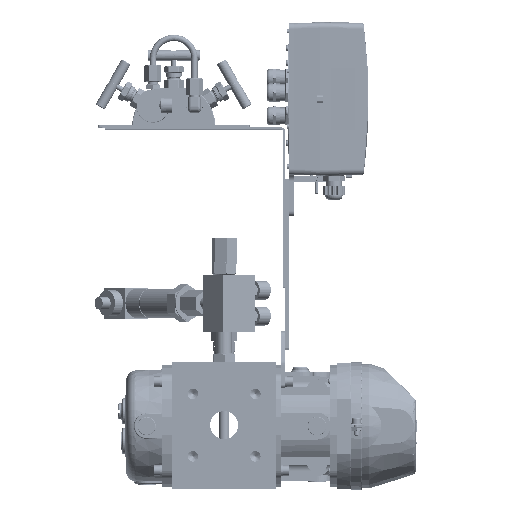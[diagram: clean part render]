
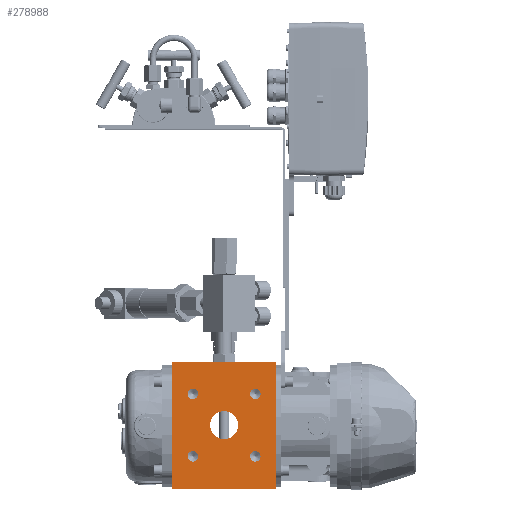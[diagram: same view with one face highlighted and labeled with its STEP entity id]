
A CAD part, front view. The second image highlights one B-rep face of the part: STEP entity #278988.
In plain terms, the highlighted planar face has unit normal (0, -1, 0).
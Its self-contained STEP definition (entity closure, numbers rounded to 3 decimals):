
#278988=ADVANCED_FACE('',(#538235,#538237,#538239,#538241,#538243,#538245),#538247,
.T.);
#538235=FACE_BOUND('',#538236,.T.);
#538236=EDGE_LOOP('',(#751439,#751440,#751441,#751442));
#538237=FACE_BOUND('',#538238,.T.);
#538238=EDGE_LOOP('',(#751443));
#538239=FACE_BOUND('',#538240,.T.);
#538240=EDGE_LOOP('',(#751444));
#538241=FACE_BOUND('',#538242,.T.);
#538242=EDGE_LOOP('',(#751445));
#538243=FACE_BOUND('',#538244,.T.);
#538244=EDGE_LOOP('',(#751446));
#538245=FACE_BOUND('',#538246,.T.);
#538246=EDGE_LOOP('',(#751447));
#538247=PLANE('',#538248);
#538248=AXIS2_PLACEMENT_3D('',#538249,#538250,#538251);
#538249=CARTESIAN_POINT('',(-14.,-64.84,61.91));
#538250=DIRECTION('',(0.,-1.,0.));
#538251=DIRECTION('',(0.,0.,-1.));
#751439=ORIENTED_EDGE('',*,*,#849894,.T.);
#751440=ORIENTED_EDGE('',*,*,#849966,.T.);
#751441=ORIENTED_EDGE('',*,*,#849853,.T.);
#751442=ORIENTED_EDGE('',*,*,#849965,.F.);
#751443=ORIENTED_EDGE('',*,*,#849967,.T.);
#751444=ORIENTED_EDGE('',*,*,#849968,.T.);
#751445=ORIENTED_EDGE('',*,*,#849969,.T.);
#751446=ORIENTED_EDGE('',*,*,#849970,.T.);
#751447=ORIENTED_EDGE('',*,*,#849971,.T.);
#849853=EDGE_CURVE('',#994145,#994143,#994146,.T.);
#849894=EDGE_CURVE('',#994226,#994224,#994227,.T.);
#849965=EDGE_CURVE('',#994226,#994143,#994343,.T.);
#849966=EDGE_CURVE('',#994224,#994145,#994344,.T.);
#849967=EDGE_CURVE('',#994345,#994345,#994346,.T.);
#849968=EDGE_CURVE('',#994347,#994347,#994348,.T.);
#849969=EDGE_CURVE('',#994349,#994349,#994350,.T.);
#849970=EDGE_CURVE('',#994351,#994351,#994352,.T.);
#849971=EDGE_CURVE('',#994353,#994353,#994354,.T.);
#994143=VERTEX_POINT('',#1396535);
#994145=VERTEX_POINT('',#1396539);
#994146=LINE('',#1396540,#1396541);
#994224=VERTEX_POINT('',#1396762);
#994226=VERTEX_POINT('',#1396766);
#994227=LINE('',#1396767,#1396768);
#994343=LINE('',#1397566,#1397567);
#994344=LINE('',#1397569,#1397570);
#994345=VERTEX_POINT('',#1397572);
#994346=CIRCLE('',#1397573,5.053);
#994347=VERTEX_POINT('',#1397577);
#994348=CIRCLE('',#1397578,5.053);
#994349=VERTEX_POINT('',#1397582);
#994350=CIRCLE('',#1397583,5.053);
#994351=VERTEX_POINT('',#1397587);
#994352=CIRCLE('',#1397588,13.5);
#994353=VERTEX_POINT('',#1397592);
#994354=CIRCLE('',#1397593,5.053);
#1396535=CARTESIAN_POINT('',(86.,-64.84,61.91));
#1396539=CARTESIAN_POINT('',(86.,-64.84,-60.09));
#1396540=CARTESIAN_POINT('',(86.,-64.84,-60.09));
#1396541=VECTOR('',#1396542,1.);
#1396542=DIRECTION('',(0.,0.,1.));
#1396762=CARTESIAN_POINT('',(-14.,-64.84,-60.09));
#1396766=CARTESIAN_POINT('',(-14.,-64.84,61.91));
#1396767=CARTESIAN_POINT('',(-14.,-64.84,61.91));
#1396768=VECTOR('',#1396769,1.);
#1396769=DIRECTION('',(0.,0.,-1.));
#1397566=CARTESIAN_POINT('',(-14.,-64.84,61.91));
#1397567=VECTOR('',#1397568,1.);
#1397568=DIRECTION('',(1.,0.,0.));
#1397569=CARTESIAN_POINT('',(-14.,-64.84,-60.09));
#1397570=VECTOR('',#1397571,1.);
#1397571=DIRECTION('',(1.,0.,0.));
#1397572=CARTESIAN_POINT('',(11.001,-64.84,30.962));
#1397573=AXIS2_PLACEMENT_3D('',#1397574,#1397575,#1397576);
#1397574=CARTESIAN_POINT('',(5.948,-64.84,30.962));
#1397575=DIRECTION('',(0.,1.,0.));
#1397576=DIRECTION('',(1.,0.,0.));
#1397577=CARTESIAN_POINT('',(11.001,-64.84,-29.142));
#1397578=AXIS2_PLACEMENT_3D('',#1397579,#1397580,#1397581);
#1397579=CARTESIAN_POINT('',(5.948,-64.84,-29.142));
#1397580=DIRECTION('',(0.,1.,0.));
#1397581=DIRECTION('',(1.,0.,0.));
#1397582=CARTESIAN_POINT('',(71.105,-64.84,-29.142));
#1397583=AXIS2_PLACEMENT_3D('',#1397584,#1397585,#1397586);
#1397584=CARTESIAN_POINT('',(66.052,-64.84,-29.142));
#1397585=DIRECTION('',(0.,1.,0.));
#1397586=DIRECTION('',(1.,0.,0.));
#1397587=CARTESIAN_POINT('',(22.5,-64.84,0.91));
#1397588=AXIS2_PLACEMENT_3D('',#1397589,#1397590,#1397591);
#1397589=CARTESIAN_POINT('',(36.,-64.84,0.91));
#1397590=DIRECTION('',(0.,1.,0.));
#1397591=DIRECTION('',(-1.,0.,0.));
#1397592=CARTESIAN_POINT('',(71.105,-64.84,30.962));
#1397593=AXIS2_PLACEMENT_3D('',#1397594,#1397595,#1397596);
#1397594=CARTESIAN_POINT('',(66.052,-64.84,30.962));
#1397595=DIRECTION('',(0.,1.,0.));
#1397596=DIRECTION('',(1.,0.,0.));
